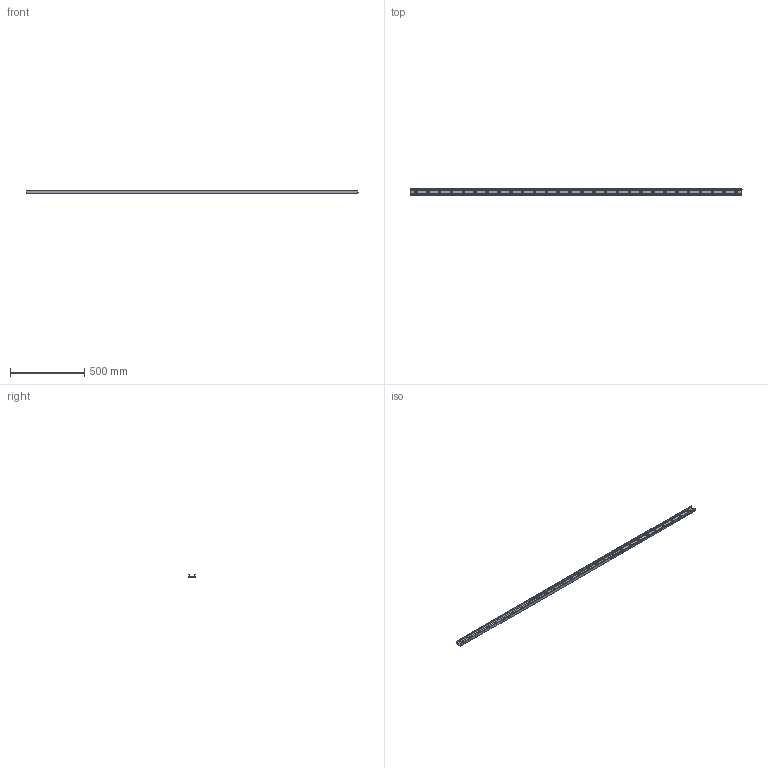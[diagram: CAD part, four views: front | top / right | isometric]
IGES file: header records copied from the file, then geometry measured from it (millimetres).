
Start section: SolidWorks IGES file using analytic representation for surfaces
Global section: file name: C:\Users\IanO\Desktop\43\L1943.ULC43_v2_20180121_IGES\L1943.ULC43-2240.igs; native system: SolidWorks 2017; preprocessor: SolidWorks 2017; author: IanO; date: 190121.084939; units: millimetre
Bounding box: 2240 x 43 x 21 mm (x, y, z)
Surface area: 351439.2 mm2 (no closed solid volume)
Topology: 0 solids, 0 shells, 166 faces, 4326 edges, 4326 vertices
Faces by surface type: revolution 125, bspline 41
